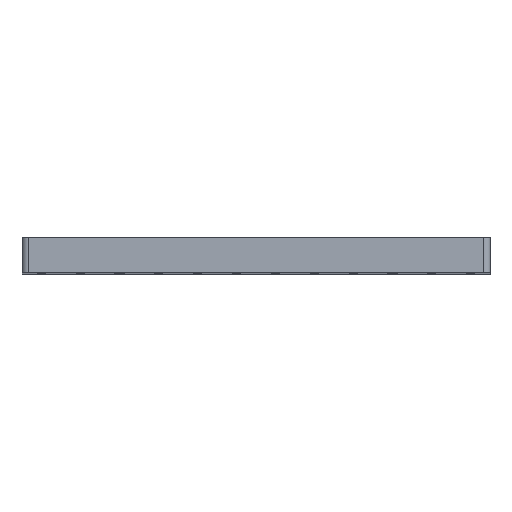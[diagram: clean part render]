
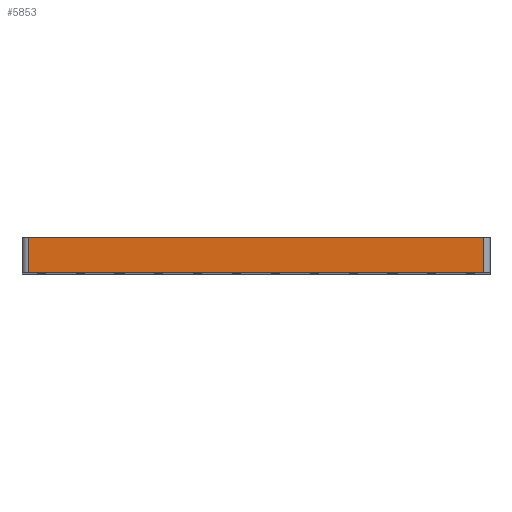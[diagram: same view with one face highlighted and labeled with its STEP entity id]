
A CAD part, top view. The second image highlights one B-rep face of the part: STEP entity #5853.
In plain terms, the highlighted planar face has unit normal (0, 0, 1).
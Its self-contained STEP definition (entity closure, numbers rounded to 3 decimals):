
#271=LINE('',#9937,#533);
#276=LINE('',#9952,#538);
#277=LINE('',#9956,#539);
#278=LINE('',#9958,#540);
#533=VECTOR('',#8398,10.);
#538=VECTOR('',#8415,10.);
#539=VECTOR('',#8420,10.);
#540=VECTOR('',#8423,10.);
#1537=FACE_OUTER_BOUND('',#2045,.T.);
#2045=EDGE_LOOP('',(#5326,#5327,#5328,#5329));
#3289=VERTEX_POINT('',#9934);
#3290=VERTEX_POINT('',#9936);
#3294=VERTEX_POINT('',#9950);
#3295=VERTEX_POINT('',#9954);
#4045=EDGE_CURVE('',#3290,#3289,#271,.T.);
#4053=EDGE_CURVE('',#3294,#3289,#276,.T.);
#4055=EDGE_CURVE('',#3290,#3295,#277,.T.);
#4056=EDGE_CURVE('',#3295,#3294,#278,.T.);
#5326=ORIENTED_EDGE('',*,*,#4053,.F.);
#5327=ORIENTED_EDGE('',*,*,#4056,.F.);
#5328=ORIENTED_EDGE('',*,*,#4055,.F.);
#5329=ORIENTED_EDGE('',*,*,#4045,.T.);
#5591=PLANE('',#6638);
#5853=ADVANCED_FACE('',(#1537),#5591,.T.);
#6638=AXIS2_PLACEMENT_3D('',#9957,#8421,#8422);
#8398=DIRECTION('',(1.,0.,0.));
#8415=DIRECTION('',(0.,-1.,0.));
#8420=DIRECTION('',(0.,1.,0.));
#8421=DIRECTION('center_axis',(0.,0.,1.));
#8422=DIRECTION('ref_axis',(1.,0.,0.));
#8423=DIRECTION('',(1.,0.,0.));
#9934=CARTESIAN_POINT('',(296.,0.,0.));
#9936=CARTESIAN_POINT('',(4.,0.,0.));
#9937=CARTESIAN_POINT('',(0.,0.,0.));
#9950=CARTESIAN_POINT('',(296.,22.5,0.));
#9952=CARTESIAN_POINT('',(296.,0.,0.));
#9954=CARTESIAN_POINT('',(4.,22.5,0.));
#9956=CARTESIAN_POINT('',(4.,0.,0.));
#9957=CARTESIAN_POINT('Origin',(0.,0.,0.));
#9958=CARTESIAN_POINT('',(0.,22.5,0.));
